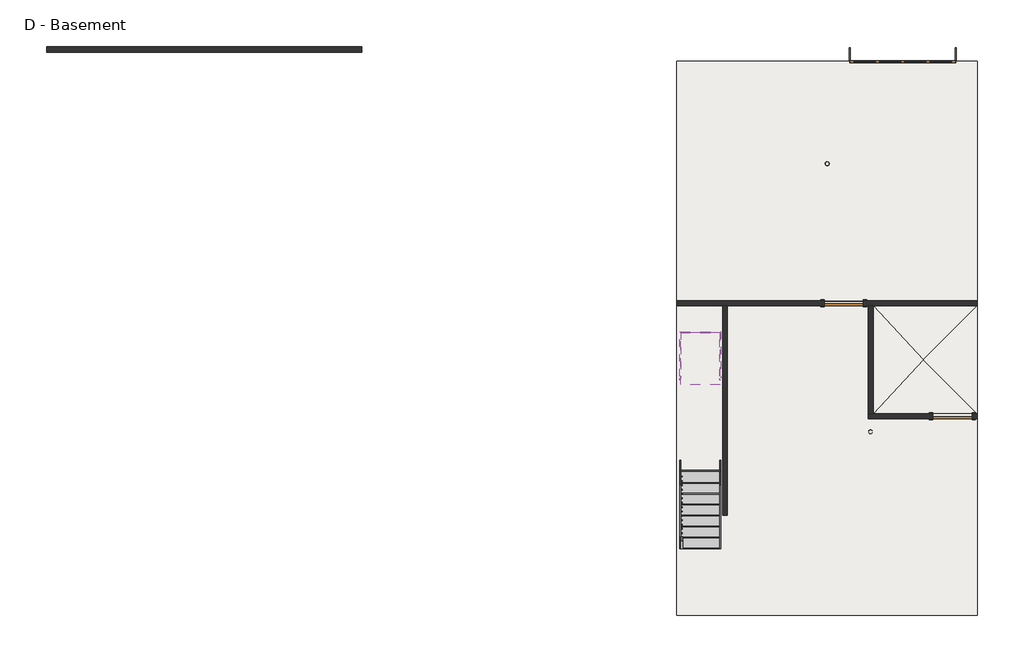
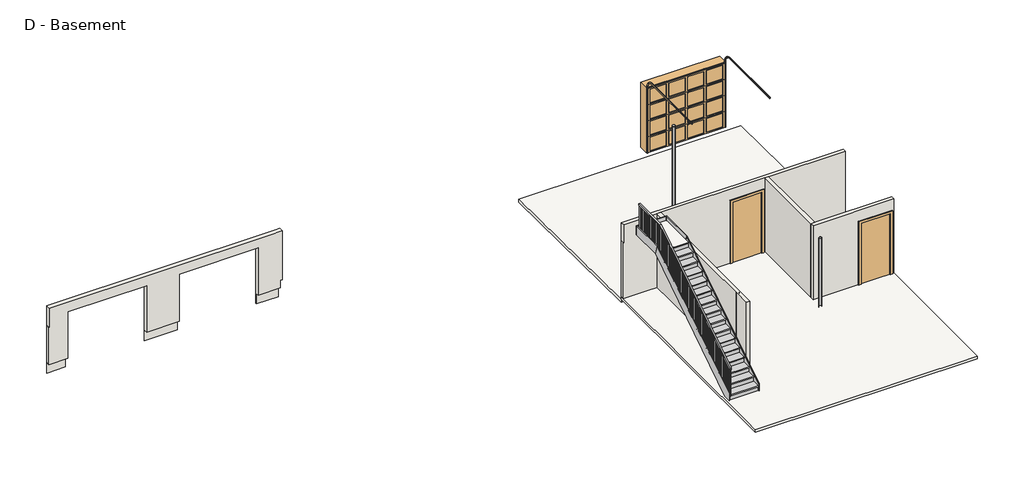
# One storey: 6 columns, 5 members, 5 walls, 4 doors, 4 slabs, 1 railing, 1 stair flight.
"""IFC4 building model written with IfcOpenShell, lengths in millimetres."""

from ifc_helpers import new_model, si_unit, frame, origin, place, context, project, spatial, polyline, outline, extrude, faceted_brep, transform, mapped, element, save
from components import pipe_column_pipe3std_fa5e6a41, pipe_column_pipe3std_58bc24d5, pipe_column_pipe3std_028f6587, pipe_column_pipe3std_edaa44f0, door_7a04b6f2, door_5e62189b, non_monolithic_landing_39bc03cd, stair_flight_ca58553a

model = new_model("IFC4")

# Units and contexts
model_context = context("Model", 3, world=origin())
ifc_project = project(units=[si_unit("LENGTHUNIT", "METRE", prefix="MILLI")], contexts=[model_context])

# Site, building, storey
site = spatial("IfcSite", under=ifc_project)
building = spatial("IfcBuilding", under=site)
storey = spatial("IfcBuildingStorey", under=building, Name="D - Basement", Elevation=-958.85)

# Columns
placement = place(None, origin())
pipe_column_pipe3std_shape = pipe_column_pipe3std_fa5e6a41(model_context)
element("IfcColumn", 1, ObjectType="Pipe-Column : Pipe3STD", at=placement, inside=storey, context=model_context, shape_type="MappedRepresentation", body=[
    mapped(pipe_column_pipe3std_shape, transform((15232.5370514, -2782.5289462, 0.0), x_axis=(1.0, 0.0, 0.0), y_axis=(0.0, 1.0, 0.0), z_axis=(0.0, 0.0, 1.0))),
])
element("IfcColumn", 2, ObjectType="Pipe-Column : Pipe3STD", at=placement, inside=storey, context=model_context, shape_type="MappedRepresentation", body=[
    mapped(pipe_column_pipe3std_shape, transform((11841.6370514, -2782.5289462, 0.0), x_axis=(1.0, 0.0, 0.0), y_axis=(0.0, 1.0, 0.0), z_axis=(0.0, 0.0, 1.0))),
])
pipe_column_pipe3std_2_shape = pipe_column_pipe3std_58bc24d5(model_context)
element("IfcColumn", 3, ObjectType="Pipe-Column : Pipe3STD", at=placement, inside=storey, context=model_context, shape_type="MappedRepresentation", body=[
    mapped(pipe_column_pipe3std_2_shape, transform((11841.6370514, -4154.1289462, 0.0), x_axis=(1.0, 0.0, 0.0), y_axis=(0.0, 1.0, 0.0), z_axis=(0.0, 0.0, 1.0))),
])
pipe_column_pipe3std_3_shape = pipe_column_pipe3std_028f6587(model_context)
element("IfcColumn", 4, ObjectType="Pipe-Column : Pipe3STD", at=placement, inside=storey, context=model_context, shape_type="MappedRepresentation", body=[
    mapped(pipe_column_pipe3std_3_shape, transform((11841.6370514, 201.9710538, 0.0), x_axis=(1.0, 0.0, 0.0), y_axis=(0.0, 1.0, 0.0), z_axis=(0.0, 0.0, 1.0))),
])
element("IfcColumn", 5, ObjectType="Pipe-Column : Pipe3STD", at=placement, inside=storey, context=model_context, shape_type="MappedRepresentation", body=[
    mapped(pipe_column_pipe3std_3_shape, transform((15232.5370514, 201.9710538, 0.0), x_axis=(1.0, 0.0, 0.0), y_axis=(0.0, 1.0, 0.0), z_axis=(0.0, 0.0, 1.0))),
])
pipe_column_pipe3std_4_shape = pipe_column_pipe3std_edaa44f0(model_context)
element("IfcColumn", 6, ObjectType="Pipe-Column : Pipe3STD", at=placement, inside=storey, context=model_context, shape_type="MappedRepresentation", body=[
    mapped(pipe_column_pipe3std_4_shape, transform((14222.8870514, 3462.6960538, 0.0), x_axis=(1.0, 0.0, 0.0), y_axis=(0.0, 1.0, 0.0), z_axis=(0.0, 0.0, 1.0))),
])

# Doors
door_shape = door_7a04b6f2(model_context)
element("IfcDoor", 7, ObjectType="Door-Garage-Embossed_Panel : 96\" x 84\"", at=placement, inside=storey, context=model_context, shape_type="MappedRepresentation", body=[
    mapped(door_shape, transform((15981.8370514, 6009.0460538, -958.85), x_axis=(1.0, 0.0, 0.0), y_axis=(0.0, 1.0, 0.0), z_axis=(0.0, 0.0, 1.0))),
])
element("IfcDoor", 8, ObjectType="Door-Garage-Embossed_Panel : 96\" x 84\"", at=placement, inside=storey, context=model_context, shape_type="MappedRepresentation", body=[
    mapped(door_shape, transform((15981.8370514, 6009.0460538, -958.85), x_axis=(1.0, 0.0, 0.0), y_axis=(0.0, 1.0, 0.0), z_axis=(0.0, 0.0, 1.0))),
])
door_2_shape = door_5e62189b(model_context)
element("IfcDoor", 9, ObjectType="Single-Flush : 36\" x 80\"", at=placement, inside=storey, context=model_context, shape_type="MappedRepresentation", body=[
    mapped(door_2_shape, transform((14610.2370514, 208.3210538, -958.85), x_axis=(1.0, 0.0, 0.0), y_axis=(0.0, 1.0, 0.0), z_axis=(0.0, 0.0, 1.0))),
])
element("IfcDoor", 10, ObjectType="Single-Flush : 36\" x 80\"", at=placement, inside=storey, context=model_context, shape_type="MappedRepresentation", body=[
    mapped(door_2_shape, transform((17137.5370514, -2420.5789462, -958.85), x_axis=(1.0, 0.0, 0.0), y_axis=(0.0, 1.0, 0.0), z_axis=(0.0, 0.0, 1.0))),
])

# Members
element("IfcMember", 11, ObjectType="Stringer - Paint - 3/4\" Width", at=placement, inside=storey, context=model_context, shape_type="SweptSolid", body=[
    extrude(outline(polyline([(-5500.3289462, -958.85), (-5500.3289462, -725.4832083), (-1580.7789382, 1816.1), (-1490.6062153, 1511.3), (-5299.9941671, -958.85), (-5500.3289462, -958.85)])), frame((10790.7120514, 0.0, 0.0), z_axis=(1.0, 0.0, 0.0), x_axis=(0.0, 1.0, 0.0)), (0.0, 0.0, 1.0), 19.05),
])
element("IfcMember", 12, ObjectType="Stringer - Paint - 3/4\" Width", at=placement, inside=storey, context=model_context, shape_type="SweptSolid", body=[
    extrude(outline(polyline([(-5500.3289462, -958.85), (-5500.3289462, -725.4832083), (-1580.7789382, 1816.1), (-1490.6062153, 1511.3), (-5299.9941671, -958.85), (-5500.3289462, -958.85)])), frame((11724.1620514, 0.0, 0.0), z_axis=(1.0, 0.0, 0.0), x_axis=(0.0, 1.0, 0.0)), (0.0, 0.0, 1.0), 19.05),
])
element("IfcMember", 13, ObjectType="Stringer - Paint - 3/4\" Width", at=placement, inside=storey, context=model_context, shape_type="SweptSolid", body=[
    extrude(outline(polyline([(11743.2120514, -452.0789462), (11724.1620514, -471.1289462), (10809.7620514, -471.1289462), (10790.7120514, -452.0789462), (11743.2120514, -452.0789462)])), frame((0.0, 0.0, 1511.3), z_axis=(0.0, 0.0, 1.0), x_axis=(1.0, 0.0, 0.0)), (0.0, 0.0, 1.0), 304.8),
])
element("IfcMember", 14, ObjectType="Stringer - Paint - 3/4\" Width", at=placement, inside=storey, context=model_context, shape_type="Brep", body=[
    faceted_brep([(10809.7620514, -471.1289462, 1816.1), (10790.7120514, -452.0789462, 1816.1), (10790.7120514, -1580.7789382, 1816.1), (10809.7620514, -1580.7789382, 1816.1), (10809.7620514, -471.1289462, 1511.3), (10809.7620514, -1490.6062153, 1511.3), (10790.7120514, -452.0789462, 1511.3), (10790.7120514, -1490.6062153, 1511.3)], [[[0, 1, 2, 3]], [[4, 0, 3, 5]], [[6, 4, 5, 7]], [[1, 6, 7, 2]], [[1, 0, 4, 6]], [[2, 7, 5, 3]]]),
])
element("IfcMember", 15, ObjectType="Stringer - Paint - 3/4\" Width", at=placement, inside=storey, context=model_context, shape_type="Brep", body=[
    faceted_brep([(11724.1620514, -1580.7789382, 1816.1), (11743.2120514, -1580.7789382, 1816.1), (11743.2120514, -452.0789462, 1816.1), (11724.1620514, -471.1289462, 1816.1), (11724.1620514, -1490.6062153, 1511.3), (11724.1620514, -471.1289462, 1511.3), (11743.2120514, -1490.6062153, 1511.3), (11743.2120514, -452.0789462, 1511.3)], [[[0, 1, 2, 3]], [[4, 0, 3, 5]], [[6, 4, 5, 7]], [[1, 6, 7, 2]], [[1, 0, 4, 6]], [[2, 7, 5, 3]]]),
])

# Railing
element("IfcRailing", 16, ObjectType="Handrail - Rectangular", at=placement, inside=storey, context=model_context, shape_type="SolidModel", body=[
    faceted_brep([(10809.7620514, -531.4539462, 2590.8), (10860.5620514, -531.4539462, 2590.8), (10860.5620514, -531.4539462, 2540.0), (10809.7620514, -531.4539462, 2540.0), (10809.7620514, -1675.3001591, 2540.0), (10809.7620514, -1690.3289462, 2590.8), (10860.5620514, -1675.3001591, 2540.0), (10860.5620514, -1690.3289462, 2590.8), (10809.7620514, -5500.3289462, 120.253125), (10809.7620514, -5500.3289462, 59.7078958), (10860.5620514, -5500.3289462, 59.7078958), (10860.5620514, -5500.3289462, 120.253125)], [[[0, 1, 2, 3]], [[4, 5, 0, 3]], [[6, 4, 3, 2]], [[7, 6, 2, 1]], [[5, 7, 1, 0]], [[8, 9, 10, 11]], [[9, 8, 5, 4]], [[10, 9, 4, 6]], [[11, 10, 6, 7]], [[8, 11, 7, 5]]]),
    extrude(outline(polyline([(-5459.0539462, 86.4721536), (-5440.0039462, 98.824888), (-5440.0039462, -794.146875), (-5459.0539462, -794.146875), (-5459.0539462, 86.4721536)])), frame((10825.6370514, 0.0, 0.0), z_axis=(1.0, 0.0, 0.0), x_axis=(0.0, 1.0, 0.0)), (0.0, 0.0, 1.0), 19.05),
    extrude(outline(polyline([(-5357.4539462, 152.3534036), (-5338.4039462, 164.706138), (-5338.4039462, -794.146875), (-5357.4539462, -794.146875), (-5357.4539462, 152.3534036)])), frame((10825.6370514, 0.0, 0.0), z_axis=(1.0, 0.0, 0.0), x_axis=(0.0, 1.0, 0.0)), (0.0, 0.0, 1.0), 19.05),
    extrude(outline(polyline([(-5255.8539462, 218.2346536), (-5236.8039462, 230.587388), (-5236.8039462, -629.44375), (-5255.8539462, -629.44375), (-5255.8539462, 218.2346536)])), frame((10825.6370514, 0.0, 0.0), z_axis=(1.0, 0.0, 0.0), x_axis=(0.0, 1.0, 0.0)), (0.0, 0.0, 1.0), 19.05),
    extrude(outline(polyline([(-5154.2539462, 284.1159036), (-5135.2039462, 296.468638), (-5135.2039462, -629.44375), (-5154.2539462, -629.44375), (-5154.2539462, 284.1159036)])), frame((10825.6370514, 0.0, 0.0), z_axis=(1.0, 0.0, 0.0), x_axis=(0.0, 1.0, 0.0)), (0.0, 0.0, 1.0), 19.05),
    extrude(outline(polyline([(-5052.6539462, 349.9971536), (-5033.6039462, 362.349888), (-5033.6039462, -629.44375), (-5052.6539462, -629.44375), (-5052.6539462, 349.9971536)])), frame((10825.6370514, 0.0, 0.0), z_axis=(1.0, 0.0, 0.0), x_axis=(0.0, 1.0, 0.0)), (0.0, 0.0, 1.0), 19.05),
    extrude(outline(polyline([(-4951.0539462, 415.8784036), (-4932.0039462, 428.231138), (-4932.0039462, -464.740625), (-4951.0539462, -464.740625), (-4951.0539462, 415.8784036)])), frame((10825.6370514, 0.0, 0.0), z_axis=(1.0, 0.0, 0.0), x_axis=(0.0, 1.0, 0.0)), (0.0, 0.0, 1.0), 19.05),
    extrude(outline(polyline([(-4849.4539462, 481.7596536), (-4830.4039462, 494.112388), (-4830.4039462, -464.740625), (-4849.4539462, -464.740625), (-4849.4539462, 481.7596536)])), frame((10825.6370514, 0.0, 0.0), z_axis=(1.0, 0.0, 0.0), x_axis=(0.0, 1.0, 0.0)), (0.0, 0.0, 1.0), 19.05),
    extrude(outline(polyline([(-4747.8539462, 547.6409036), (-4728.8039462, 559.993638), (-4728.8039462, -300.0375), (-4747.8539462, -300.0375), (-4747.8539462, 547.6409036)])), frame((10825.6370514, 0.0, 0.0), z_axis=(1.0, 0.0, 0.0), x_axis=(0.0, 1.0, 0.0)), (0.0, 0.0, 1.0), 19.05),
    extrude(outline(polyline([(-4646.2539462, 613.5221536), (-4627.2039462, 625.874888), (-4627.2039462, -300.0375), (-4646.2539462, -300.0375), (-4646.2539462, 613.5221536)])), frame((10825.6370514, 0.0, 0.0), z_axis=(1.0, 0.0, 0.0), x_axis=(0.0, 1.0, 0.0)), (0.0, 0.0, 1.0), 19.05),
    extrude(outline(polyline([(-4544.6539462, 679.4034036), (-4525.6039462, 691.756138), (-4525.6039462, -300.0375), (-4544.6539462, -300.0375), (-4544.6539462, 679.4034036)])), frame((10825.6370514, 0.0, 0.0), z_axis=(1.0, 0.0, 0.0), x_axis=(0.0, 1.0, 0.0)), (0.0, 0.0, 1.0), 19.05),
    extrude(outline(polyline([(-4443.0539462, 745.2846536), (-4424.0039462, 757.637388), (-4424.0039462, -135.334375), (-4443.0539462, -135.334375), (-4443.0539462, 745.2846536)])), frame((10825.6370514, 0.0, 0.0), z_axis=(1.0, 0.0, 0.0), x_axis=(0.0, 1.0, 0.0)), (0.0, 0.0, 1.0), 19.05),
    extrude(outline(polyline([(-4341.4539462, 811.1659036), (-4322.4039462, 823.518638), (-4322.4039462, -135.334375), (-4341.4539462, -135.334375), (-4341.4539462, 811.1659036)])), frame((10825.6370514, 0.0, 0.0), z_axis=(1.0, 0.0, 0.0), x_axis=(0.0, 1.0, 0.0)), (0.0, 0.0, 1.0), 19.05),
    extrude(outline(polyline([(-4239.8539462, 877.0471536), (-4220.8039462, 889.399888), (-4220.8039462, 29.36875), (-4239.8539462, 29.36875), (-4239.8539462, 877.0471536)])), frame((10825.6370514, 0.0, 0.0), z_axis=(1.0, 0.0, 0.0), x_axis=(0.0, 1.0, 0.0)), (0.0, 0.0, 1.0), 19.05),
    extrude(outline(polyline([(-4138.2539462, 942.9284036), (-4119.2039462, 955.281138), (-4119.2039462, 29.36875), (-4138.2539462, 29.36875), (-4138.2539462, 942.9284036)])), frame((10825.6370514, 0.0, 0.0), z_axis=(1.0, 0.0, 0.0), x_axis=(0.0, 1.0, 0.0)), (0.0, 0.0, 1.0), 19.05),
    extrude(outline(polyline([(-4036.6539462, 1008.8096536), (-4017.6039462, 1021.162388), (-4017.6039462, 29.36875), (-4036.6539462, 29.36875), (-4036.6539462, 1008.8096536)])), frame((10825.6370514, 0.0, 0.0), z_axis=(1.0, 0.0, 0.0), x_axis=(0.0, 1.0, 0.0)), (0.0, 0.0, 1.0), 19.05),
    extrude(outline(polyline([(-3935.0539462, 1074.6909036), (-3916.0039462, 1087.043638), (-3916.0039462, 194.071875), (-3935.0539462, 194.071875), (-3935.0539462, 1074.6909036)])), frame((10825.6370514, 0.0, 0.0), z_axis=(1.0, 0.0, 0.0), x_axis=(0.0, 1.0, 0.0)), (0.0, 0.0, 1.0), 19.05),
    extrude(outline(polyline([(-3833.4539462, 1140.5721536), (-3814.4039462, 1152.924888), (-3814.4039462, 194.071875), (-3833.4539462, 194.071875), (-3833.4539462, 1140.5721536)])), frame((10825.6370514, 0.0, 0.0), z_axis=(1.0, 0.0, 0.0), x_axis=(0.0, 1.0, 0.0)), (0.0, 0.0, 1.0), 19.05),
    extrude(outline(polyline([(-3731.8539462, 1206.4534036), (-3712.8039462, 1218.806138), (-3712.8039462, 358.775), (-3731.8539462, 358.775), (-3731.8539462, 1206.4534036)])), frame((10825.6370514, 0.0, 0.0), z_axis=(1.0, 0.0, 0.0), x_axis=(0.0, 1.0, 0.0)), (0.0, 0.0, 1.0), 19.05),
    extrude(outline(polyline([(-3630.2539462, 1272.3346536), (-3611.2039462, 1284.687388), (-3611.2039462, 358.775), (-3630.2539462, 358.775), (-3630.2539462, 1272.3346536)])), frame((10825.6370514, 0.0, 0.0), z_axis=(1.0, 0.0, 0.0), x_axis=(0.0, 1.0, 0.0)), (0.0, 0.0, 1.0), 19.05),
    extrude(outline(polyline([(-3528.6539462, 1338.2159036), (-3509.6039462, 1350.568638), (-3509.6039462, 358.775), (-3528.6539462, 358.775), (-3528.6539462, 1338.2159036)])), frame((10825.6370514, 0.0, 0.0), z_axis=(1.0, 0.0, 0.0), x_axis=(0.0, 1.0, 0.0)), (0.0, 0.0, 1.0), 19.05),
    extrude(outline(polyline([(-3427.0539462, 1404.0971536), (-3408.0039462, 1416.449888), (-3408.0039462, 523.478125), (-3427.0539462, 523.478125), (-3427.0539462, 1404.0971536)])), frame((10825.6370514, 0.0, 0.0), z_axis=(1.0, 0.0, 0.0), x_axis=(0.0, 1.0, 0.0)), (0.0, 0.0, 1.0), 19.05),
    extrude(outline(polyline([(-3325.4539462, 1469.9784036), (-3306.4039462, 1482.331138), (-3306.4039462, 523.478125), (-3325.4539462, 523.478125), (-3325.4539462, 1469.9784036)])), frame((10825.6370514, 0.0, 0.0), z_axis=(1.0, 0.0, 0.0), x_axis=(0.0, 1.0, 0.0)), (0.0, 0.0, 1.0), 19.05),
    extrude(outline(polyline([(-3223.8539462, 1535.8596536), (-3204.8039462, 1548.212388), (-3204.8039462, 688.18125), (-3223.8539462, 688.18125), (-3223.8539462, 1535.8596536)])), frame((10825.6370514, 0.0, 0.0), z_axis=(1.0, 0.0, 0.0), x_axis=(0.0, 1.0, 0.0)), (0.0, 0.0, 1.0), 19.05),
    extrude(outline(polyline([(-3122.2539462, 1601.7409036), (-3103.2039462, 1614.093638), (-3103.2039462, 688.18125), (-3122.2539462, 688.18125), (-3122.2539462, 1601.7409036)])), frame((10825.6370514, 0.0, 0.0), z_axis=(1.0, 0.0, 0.0), x_axis=(0.0, 1.0, 0.0)), (0.0, 0.0, 1.0), 19.05),
    extrude(outline(polyline([(-3020.6539462, 1667.6221536), (-3001.6039462, 1679.974888), (-3001.6039462, 688.18125), (-3020.6539462, 688.18125), (-3020.6539462, 1667.6221536)])), frame((10825.6370514, 0.0, 0.0), z_axis=(1.0, 0.0, 0.0), x_axis=(0.0, 1.0, 0.0)), (0.0, 0.0, 1.0), 19.05),
    extrude(outline(polyline([(-2919.0539462, 1733.5034036), (-2900.0039462, 1745.856138), (-2900.0039462, 852.884375), (-2919.0539462, 852.884375), (-2919.0539462, 1733.5034036)])), frame((10825.6370514, 0.0, 0.0), z_axis=(1.0, 0.0, 0.0), x_axis=(0.0, 1.0, 0.0)), (0.0, 0.0, 1.0), 19.05),
    extrude(outline(polyline([(-2817.4539462, 1799.3846536), (-2798.4039462, 1811.737388), (-2798.4039462, 852.884375), (-2817.4539462, 852.884375), (-2817.4539462, 1799.3846536)])), frame((10825.6370514, 0.0, 0.0), z_axis=(1.0, 0.0, 0.0), x_axis=(0.0, 1.0, 0.0)), (0.0, 0.0, 1.0), 19.05),
    extrude(outline(polyline([(-2715.8539462, 1865.2659036), (-2696.8039462, 1877.618638), (-2696.8039462, 1017.5875), (-2715.8539462, 1017.5875), (-2715.8539462, 1865.2659036)])), frame((10825.6370514, 0.0, 0.0), z_axis=(1.0, 0.0, 0.0), x_axis=(0.0, 1.0, 0.0)), (0.0, 0.0, 1.0), 19.05),
    extrude(outline(polyline([(-2614.2539462, 1931.1471536), (-2595.2039462, 1943.499888), (-2595.2039462, 1017.5875), (-2614.2539462, 1017.5875), (-2614.2539462, 1931.1471536)])), frame((10825.6370514, 0.0, 0.0), z_axis=(1.0, 0.0, 0.0), x_axis=(0.0, 1.0, 0.0)), (0.0, 0.0, 1.0), 19.05),
    extrude(outline(polyline([(-2512.6539462, 1997.0284036), (-2493.6039462, 2009.381138), (-2493.6039462, 1017.5875), (-2512.6539462, 1017.5875), (-2512.6539462, 1997.0284036)])), frame((10825.6370514, 0.0, 0.0), z_axis=(1.0, 0.0, 0.0), x_axis=(0.0, 1.0, 0.0)), (0.0, 0.0, 1.0), 19.05),
    extrude(outline(polyline([(-2411.0539462, 2062.9096536), (-2392.0039462, 2075.262388), (-2392.0039462, 1182.290625), (-2411.0539462, 1182.290625), (-2411.0539462, 2062.9096536)])), frame((10825.6370514, 0.0, 0.0), z_axis=(1.0, 0.0, 0.0), x_axis=(0.0, 1.0, 0.0)), (0.0, 0.0, 1.0), 19.05),
    extrude(outline(polyline([(-2309.4539462, 2128.7909036), (-2290.4039462, 2141.143638), (-2290.4039462, 1182.290625), (-2309.4539462, 1182.290625), (-2309.4539462, 2128.7909036)])), frame((10825.6370514, 0.0, 0.0), z_axis=(1.0, 0.0, 0.0), x_axis=(0.0, 1.0, 0.0)), (0.0, 0.0, 1.0), 19.05),
    extrude(outline(polyline([(-2207.8539462, 2194.6721536), (-2188.8039462, 2207.024888), (-2188.8039462, 1346.99375), (-2207.8539462, 1346.99375), (-2207.8539462, 2194.6721536)])), frame((10825.6370514, 0.0, 0.0), z_axis=(1.0, 0.0, 0.0), x_axis=(0.0, 1.0, 0.0)), (0.0, 0.0, 1.0), 19.05),
    extrude(outline(polyline([(-2106.2539462, 2260.5534036), (-2087.2039462, 2272.906138), (-2087.2039462, 1346.99375), (-2106.2539462, 1346.99375), (-2106.2539462, 2260.5534036)])), frame((10825.6370514, 0.0, 0.0), z_axis=(1.0, 0.0, 0.0), x_axis=(0.0, 1.0, 0.0)), (0.0, 0.0, 1.0), 19.05),
    extrude(outline(polyline([(-2004.6539462, 2326.4346536), (-1985.6039462, 2338.787388), (-1985.6039462, 1346.99375), (-2004.6539462, 1346.99375), (-2004.6539462, 2326.4346536)])), frame((10825.6370514, 0.0, 0.0), z_axis=(1.0, 0.0, 0.0), x_axis=(0.0, 1.0, 0.0)), (0.0, 0.0, 1.0), 19.05),
    extrude(outline(polyline([(-1903.0539462, 2392.3159036), (-1884.0039462, 2404.668638), (-1884.0039462, 1511.696875), (-1903.0539462, 1511.696875), (-1903.0539462, 2392.3159036)])), frame((10825.6370514, 0.0, 0.0), z_axis=(1.0, 0.0, 0.0), x_axis=(0.0, 1.0, 0.0)), (0.0, 0.0, 1.0), 19.05),
    extrude(outline(polyline([(-1801.4539462, 2458.1971536), (-1782.4039462, 2470.549888), (-1782.4039462, 1511.696875), (-1801.4539462, 1511.696875), (-1801.4539462, 2458.1971536)])), frame((10825.6370514, 0.0, 0.0), z_axis=(1.0, 0.0, 0.0), x_axis=(0.0, 1.0, 0.0)), (0.0, 0.0, 1.0), 19.05),
    extrude(outline(polyline([(10825.6370514, -1639.5289462), (10844.6870514, -1639.5289462), (10844.6870514, -1658.5789462), (10825.6370514, -1658.5789462), (10825.6370514, -1639.5289462)])), frame((0.0, 0.0, 1676.4), z_axis=(0.0, 0.0, 1.0), x_axis=(1.0, 0.0, 0.0)), (0.0, 0.0, 1.0), 863.6),
    extrude(outline(polyline([(10825.6370514, -1537.9289462), (10844.6870514, -1537.9289462), (10844.6870514, -1556.9789462), (10825.6370514, -1556.9789462), (10825.6370514, -1537.9289462)])), frame((0.0, 0.0, 1676.4), z_axis=(0.0, 0.0, 1.0), x_axis=(1.0, 0.0, 0.0)), (0.0, 0.0, 1.0), 863.6),
    extrude(outline(polyline([(10825.6370514, -1436.3289462), (10844.6870514, -1436.3289462), (10844.6870514, -1455.3789462), (10825.6370514, -1455.3789462), (10825.6370514, -1436.3289462)])), frame((0.0, 0.0, 1676.4), z_axis=(0.0, 0.0, 1.0), x_axis=(1.0, 0.0, 0.0)), (0.0, 0.0, 1.0), 863.6),
    extrude(outline(polyline([(10825.6370514, -1334.7289462), (10844.6870514, -1334.7289462), (10844.6870514, -1353.7789462), (10825.6370514, -1353.7789462), (10825.6370514, -1334.7289462)])), frame((0.0, 0.0, 1676.4), z_axis=(0.0, 0.0, 1.0), x_axis=(1.0, 0.0, 0.0)), (0.0, 0.0, 1.0), 863.6),
    extrude(outline(polyline([(10825.6370514, -1233.1289462), (10844.6870514, -1233.1289462), (10844.6870514, -1252.1789462), (10825.6370514, -1252.1789462), (10825.6370514, -1233.1289462)])), frame((0.0, 0.0, 1676.4), z_axis=(0.0, 0.0, 1.0), x_axis=(1.0, 0.0, 0.0)), (0.0, 0.0, 1.0), 863.6),
    extrude(outline(polyline([(10825.6370514, -1131.5289462), (10844.6870514, -1131.5289462), (10844.6870514, -1150.5789462), (10825.6370514, -1150.5789462), (10825.6370514, -1131.5289462)])), frame((0.0, 0.0, 1676.4), z_axis=(0.0, 0.0, 1.0), x_axis=(1.0, 0.0, 0.0)), (0.0, 0.0, 1.0), 863.6),
    extrude(outline(polyline([(10825.6370514, -1029.9289462), (10844.6870514, -1029.9289462), (10844.6870514, -1048.9789462), (10825.6370514, -1048.9789462), (10825.6370514, -1029.9289462)])), frame((0.0, 0.0, 1676.4), z_axis=(0.0, 0.0, 1.0), x_axis=(1.0, 0.0, 0.0)), (0.0, 0.0, 1.0), 863.6),
    extrude(outline(polyline([(10825.6370514, -928.3289462), (10844.6870514, -928.3289462), (10844.6870514, -947.3789462), (10825.6370514, -947.3789462), (10825.6370514, -928.3289462)])), frame((0.0, 0.0, 1676.4), z_axis=(0.0, 0.0, 1.0), x_axis=(1.0, 0.0, 0.0)), (0.0, 0.0, 1.0), 863.6),
    extrude(outline(polyline([(10825.6370514, -826.7289462), (10844.6870514, -826.7289462), (10844.6870514, -845.7789462), (10825.6370514, -845.7789462), (10825.6370514, -826.7289462)])), frame((0.0, 0.0, 1676.4), z_axis=(0.0, 0.0, 1.0), x_axis=(1.0, 0.0, 0.0)), (0.0, 0.0, 1.0), 863.6),
    extrude(outline(polyline([(10825.6370514, -725.1289462), (10844.6870514, -725.1289462), (10844.6870514, -744.1789462), (10825.6370514, -744.1789462), (10825.6370514, -725.1289462)])), frame((0.0, 0.0, 1676.4), z_axis=(0.0, 0.0, 1.0), x_axis=(1.0, 0.0, 0.0)), (0.0, 0.0, 1.0), 863.6),
    extrude(outline(polyline([(10825.6370514, -623.5289462), (10844.6870514, -623.5289462), (10844.6870514, -642.5789462), (10825.6370514, -642.5789462), (10825.6370514, -623.5289462)])), frame((0.0, 0.0, 1676.4), z_axis=(0.0, 0.0, 1.0), x_axis=(1.0, 0.0, 0.0)), (0.0, 0.0, 1.0), 863.6),
    extrude(outline(polyline([(10825.6370514, -1680.8039462), (10844.6870514, -1680.8039462), (10844.6870514, -1699.8539462), (10825.6370514, -1699.8539462), (10825.6370514, -1680.8039462)])), frame((0.0, 0.0, 1676.4), z_axis=(0.0, 0.0, 1.0), x_axis=(1.0, 0.0, 0.0)), (0.0, 0.0, 1.0), 863.6),
    extrude(outline(polyline([(-5500.3289462, 59.7078958), (-5481.2789462, 72.0606302), (-5481.2789462, -794.146875), (-5500.3289462, -794.146875), (-5500.3289462, 59.7078958)])), frame((10825.6370514, 0.0, 0.0), z_axis=(1.0, 0.0, 0.0), x_axis=(0.0, 1.0, 0.0)), (0.0, 0.0, 1.0), 19.05),
    extrude(outline(polyline([(10825.6370514, -531.4539462), (10844.6870514, -531.4539462), (10844.6870514, -550.5039462), (10825.6370514, -550.5039462), (10825.6370514, -531.4539462)])), frame((0.0, 0.0, 1676.4), z_axis=(0.0, 0.0, 1.0), x_axis=(1.0, 0.0, 0.0)), (0.0, 0.0, 1.0), 863.6),
])

# Slabs
element("IfcSlab", 17, ObjectType="Concrete Slab - 3 1/2\"", at=placement, inside=storey, context=model_context, shape_type="Brep", body=[
    faceted_brep([(17721.7370514, 151.1710538, -1047.75), (17721.7370514, -2363.4289462, -1047.75), (15296.0370514, -2363.4289462, -1047.75), (15296.0370514, 151.1710538, -1047.75), (17721.7370514, 151.1710538, -958.85), (17721.7370514, -2363.4289462, -958.85), (15296.0370514, -2363.4289462, -958.85), (15296.0370514, 151.1710538, -958.85), (16457.93655, -1100.6899782, -971.55)], [[[0, 1, 2, 3]], [[1, 0, 4, 5]], [[2, 1, 5, 6]], [[3, 2, 6, 7]], [[0, 3, 7, 4]], [[7, 6, 8]], [[5, 4, 8]], [[6, 5, 8]], [[7, 8, 4]]]),
])
element("IfcSlab", 18, ObjectType="Concrete Slab - 3 1/2\"", at=placement, inside=storey, context=model_context, shape_type="SweptSolid", body=[
    extrude(outline(polyline([(17721.7370514, 252.7710538), (17721.7370514, 163.8710538), (15296.0370514, 163.8710538), (15296.0370514, -2363.4289462), (17721.7370514, -2363.4289462), (17721.7370514, -7049.7289462), (10724.0370514, -7049.7289462), (10724.0370514, 252.7710538), (17721.7370514, 252.7710538)])), frame((0.0, 0.0, -1047.75), z_axis=(0.0, 0.0, 1.0), x_axis=(1.0, 0.0, 0.0)), (0.0, 0.0, 1.0), 88.9),
])
element("IfcSlab", 19, ObjectType="Concrete Slab - 4\"", at=placement, inside=storey, context=model_context, shape_type="SweptSolid", body=[
    extrude(outline(polyline([(5853.4710538, -1212.855512), (265.4710538, -1154.6471787), (265.4710538, -1053.0416667), (5853.4710538, -1111.25), (5853.4710538, -1212.855512)])), frame((10724.0370514, 0.0, 0.0), z_axis=(1.0, 0.0, 0.0), x_axis=(0.0, 1.0, 0.0)), (0.0, 0.0, 1.0), 6997.7),
])
non_monolithic_landing_shape = non_monolithic_landing_39bc03cd(model_context)
element("IfcSlab", 20, ObjectType="Non-Monolithic Landing", at=placement, inside=storey, context=model_context, shape_type="MappedRepresentation", body=[
    mapped(non_monolithic_landing_shape, transform((0.0, 0.0, 0.0), x_axis=(1.0, 0.0, 0.0), y_axis=(0.0, 1.0, 0.0), z_axis=(0.0, 0.0, 1.0))),
])

# Stair flight
stair_flight_shape = stair_flight_ca58553a(model_context)
element("IfcStairFlight", 21, ObjectType="Wood Steps with 1\" Front Nosing", at=placement, inside=storey, context=model_context, shape_type="MappedRepresentation", body=[
    mapped(stair_flight_shape, transform((0.0, 0.0, 0.0), x_axis=(1.0, 0.0, 0.0), y_axis=(0.0, 1.0, 0.0), z_axis=(0.0, 0.0, 1.0))),
])

# Walls
element("IfcWall", 22, ObjectType="Exterior - Wood Siding on Wood Stud", at=placement, inside=storey, context=model_context, shape_type="Brep", body=[
    faceted_brep([(-3950.8129486, 6190.0210538, 285.75), (3256.4370514, 6190.0210538, 285.75), (3383.4370514, 6190.0210538, 285.75), (3383.4370514, 6190.0210538, -1339.85), (3323.1120514, 6190.0210538, -1339.85), (3323.1120514, 6190.0210538, -1948.3386216), (2634.1370514, 6190.0210538, -1948.3386216), (2634.1370514, 6190.0210538, -19.05), (144.9370514, 6190.0210538, -19.05), (144.9370514, 6190.0210538, -1948.3386216), (-883.7629486, 6190.0210538, -1948.3386216), (-883.7629486, 6190.0210538, -44.45), (-3372.9629486, 6190.0210538, -44.45), (-3372.9629486, 6190.0210538, -1948.3386216), (-3957.1629486, 6190.0210538, -1948.3386216), (-3957.1629486, 6190.0210538, -361.95), (-3950.8129486, 6190.0210538, -361.95), (3383.4370514, 6056.6710538, 285.75), (3256.4370514, 6056.6710538, 285.75), (3129.4370514, 6056.6710538, 285.75), (-3950.8129486, 6056.6710538, 285.75), (-3950.8129486, 6056.6710538, -361.95), (-3957.1629486, 6056.6710538, -361.95), (-3957.1629486, 6056.6710538, -1593.85), (-3372.9629486, 6056.6710538, -1593.85), (-3372.9629486, 6056.6710538, -44.45), (-883.7629486, 6056.6710538, -44.45), (-883.7629486, 6056.6710538, -1593.85), (144.9370514, 6056.6710538, -1593.85), (144.9370514, 6056.6710538, -19.05), (2634.1370514, 6056.6710538, -19.05), (2634.1370514, 6056.6710538, -1593.85), (3323.1120514, 6056.6710538, -1593.85), (3323.1120514, 6056.6710538, -1339.85), (3383.4370514, 6056.6710538, -1339.85), (3383.4370514, 6056.6710538, -666.75), (3323.1120514, 6170.9710538, -1593.85), (3323.1120514, 6170.9710538, -1948.3386216), (3383.4370514, 6170.9710538, -1339.85), (-3957.1629486, 6170.9710538, -1593.85), (-3372.9629486, 6170.9710538, -1593.85), (-883.7629486, 6170.9710538, -1593.85), (144.9370514, 6170.9710538, -1593.85), (2634.1370514, 6170.9710538, -1593.85), (-3957.1629486, 6170.9710538, -1948.3386216), (-3372.9629486, 6170.9710538, -1948.3386216), (-883.7629486, 6170.9710538, -1948.3386216), (144.9370514, 6170.9710538, -1948.3386216), (2634.1370514, 6170.9710538, -1948.3386216)], [[[0, 1, 2, 3, 4, 5, 6, 7, 8, 9, 10, 11, 12, 13, 14, 15, 16]], [[17, 18, 19, 20, 21, 22, 23, 24, 25, 26, 27, 28, 29, 30, 31, 32, 33, 34, 35]], [[2, 1, 0, 20, 19, 18, 17]], [[5, 4, 33, 32, 36, 37]], [[34, 33, 4, 3, 38]], [[24, 23, 39, 40]], [[27, 41, 42, 28]], [[36, 32, 31, 43]], [[44, 45, 40, 39]], [[41, 46, 47, 42]], [[37, 36, 43, 48]], [[14, 13, 45, 44]], [[46, 10, 9, 47]], [[5, 37, 48, 6]], [[26, 11, 10, 46, 41, 27]], [[11, 26, 25, 12]], [[12, 25, 24, 40, 45, 13]], [[30, 7, 6, 48, 43, 31]], [[7, 30, 29, 8]], [[8, 29, 28, 42, 47, 9]], [[16, 15, 22, 21]], [[39, 23, 22, 15, 14, 44]], [[20, 0, 16, 21]], [[2, 17, 35, 34, 38, 3]]]),
])
element("IfcWall", 23, ObjectType="Interior - 4 1/2\" Partition", at=placement, inside=storey, context=model_context, shape_type="Brep", body=[
    faceted_brep([(17721.7370514, -2363.4289462, -958.85), (17594.7370514, -2363.4289462, -958.85), (17594.7370514, -2363.4289462, 1073.15), (16680.3370514, -2363.4289462, 1073.15), (16680.3370514, -2363.4289462, -958.85), (15296.0370514, -2363.4289462, -958.85), (15181.7370514, -2363.4289462, -958.85), (15181.7370514, -2363.4289462, 1504.95), (15296.0370514, -2363.4289462, 1504.95), (17721.7370514, -2363.4289462, 1504.95), (17594.7370514, -2477.7289462, 1073.15), (17594.7370514, -2477.7289462, -958.85), (17721.7370514, -2477.7289462, -958.85), (17721.7370514, -2477.7289462, 1504.95), (15181.7370514, -2477.7289462, 1504.95), (15181.7370514, -2477.7289462, -958.85), (16680.3370514, -2477.7289462, -958.85), (16680.3370514, -2477.7289462, 1073.15)], [[[0, 1, 2, 3, 4, 5, 6, 7, 8, 9]], [[10, 11, 12, 13, 14, 15, 16, 17]], [[16, 15, 6, 5, 4]], [[12, 11, 1, 0]], [[9, 8, 7, 14, 13]], [[7, 6, 15, 14]], [[2, 1, 11, 10]], [[3, 2, 10, 17]], [[4, 3, 17, 16]], [[0, 9, 13, 12]]]),
])
element("IfcWall", 24, ObjectType="Interior - 4 1/2\" Partition", at=placement, inside=storey, context=model_context, shape_type="Brep", body=[
    faceted_brep([(17721.7370514, 265.4710538, -958.85), (15067.4370514, 265.4710538, -958.85), (15067.4370514, 265.4710538, 1073.15), (14153.0370514, 265.4710538, 1073.15), (14153.0370514, 265.4710538, -958.85), (10724.0370514, 265.4710538, -958.85), (10724.0370514, 265.4710538, 895.35), (10730.3870514, 265.4710538, 895.35), (10730.3870514, 265.4710538, 1504.95), (17721.7370514, 265.4710538, 1504.95), (15067.4370514, 151.1710538, 1073.15), (15067.4370514, 151.1710538, -958.85), (15181.7370514, 151.1710538, -958.85), (15296.0370514, 151.1710538, -958.85), (17721.7370514, 151.1710538, -958.85), (17721.7370514, 151.1710538, 1504.95), (15296.0370514, 151.1710538, 1504.95), (15181.7370514, 151.1710538, 1504.95), (11898.7870514, 151.1710538, 1504.95), (11784.4870514, 151.1710538, 1504.95), (10730.3870514, 151.1710538, 1504.95), (10730.3870514, 151.1710538, 895.35), (10724.0370514, 151.1710538, 895.35), (10724.0370514, 151.1710538, -958.85), (11784.4870514, 151.1710538, -958.85), (11898.7870514, 151.1710538, -958.85), (14153.0370514, 151.1710538, -958.85), (14153.0370514, 151.1710538, 1073.15)], [[[0, 1, 2, 3, 4, 5, 6, 7, 8, 9]], [[10, 11, 12, 13, 14, 15, 16, 17, 18, 19, 20, 21, 22, 23, 24, 25, 26, 27]], [[14, 13, 12, 11, 1, 0]], [[26, 25, 24, 23, 5, 4]], [[9, 8, 20, 19, 18, 17, 16, 15]], [[2, 1, 11, 10]], [[3, 2, 10, 27]], [[4, 3, 27, 26]], [[0, 9, 15, 14]], [[21, 7, 6, 22]], [[6, 5, 23, 22]], [[8, 7, 21, 20]]]),
])
element("IfcWall", 25, ObjectType="Interior - 4 1/2\" Partition", at=placement, inside=storey, context=model_context, shape_type="SweptSolid", body=[
    extrude(outline(polyline([(15296.0370514, 151.1710538), (15296.0370514, -2363.4289462), (15181.7370514, -2363.4289462), (15181.7370514, 151.1710538), (15296.0370514, 151.1710538)])), frame((0.0, 0.0, -958.85), z_axis=(0.0, 0.0, 1.0), x_axis=(1.0, 0.0, 0.0)), (0.0, 0.0, 1.0), 2463.8),
])
element("IfcWall", 26, ObjectType="Interior - 4 1/2\" Partition", at=placement, inside=storey, context=model_context, shape_type="SweptSolid", body=[
    extrude(outline(polyline([(11784.4870514, -4725.6289462), (11784.4870514, 151.1710538), (11898.7870514, 151.1710538), (11898.7870514, -4725.6289462), (11784.4870514, -4725.6289462)])), frame((0.0, 0.0, -958.85), z_axis=(0.0, 0.0, 1.0), x_axis=(1.0, 0.0, 0.0)), (0.0, 0.0, 1.0), 2463.8),
])

save(model, "model.ifc")
